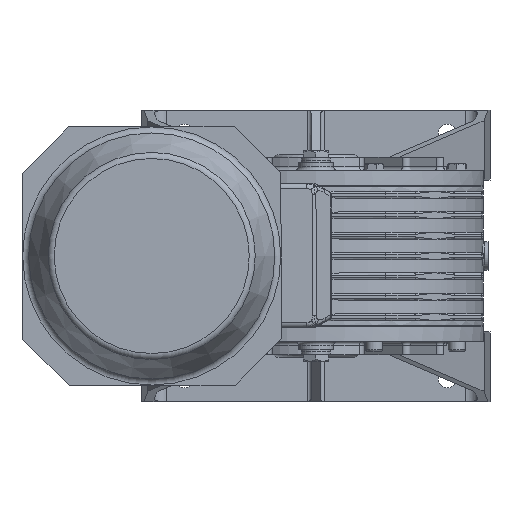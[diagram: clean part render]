
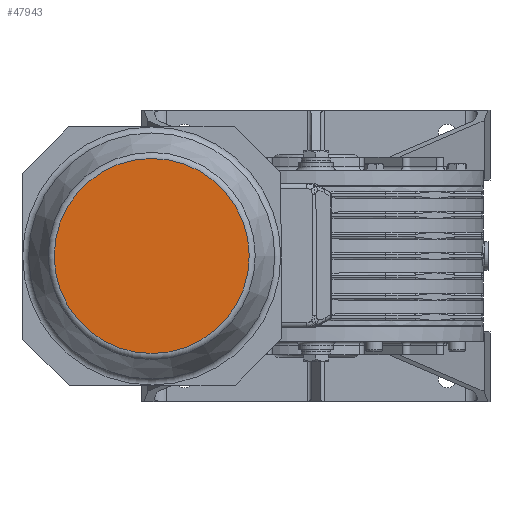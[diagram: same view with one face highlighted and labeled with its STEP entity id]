
A CAD part, left-side view. The second image highlights one B-rep face of the part: STEP entity #47943.
In plain terms, the highlighted planar face has unit normal (-1, 0, 0) as drawn and (1, 0, 0) by its records, which use the part's own axes.
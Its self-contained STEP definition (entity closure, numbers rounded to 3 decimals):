
#47923=CARTESIAN_POINT('',(349.,0.,74.23));
#47924=VERTEX_POINT('',#47923);
#47925=CARTESIAN_POINT('',(349.0,0.0,0.));
#47926=DIRECTION('',(-1.0,0.0,0.0));
#47927=DIRECTION('',(0.0,0.0,-1.0));
#47928=AXIS2_PLACEMENT_3D('',#47925,#47926,#47927);
#47929=CIRCLE('',#47928,74.23);
#47930=EDGE_CURVE('',#47924,#47924,#47929,.T.);
#47935=CARTESIAN_POINT('',(349.0,0.0,38.75));
#47936=DIRECTION('',(1.0,0.0,0.0));
#47937=DIRECTION('',(0.0,0.0,-1.0));
#47938=AXIS2_PLACEMENT_3D('',#47935,#47936,#47937);
#47939=PLANE('',#47938);
#47940=ORIENTED_EDGE('',*,*,#47930,.F.);
#47941=EDGE_LOOP('',(#47940));
#47942=FACE_OUTER_BOUND('',#47941,.T.);
#47943=ADVANCED_FACE('',(#47942),#47939,.T.);
